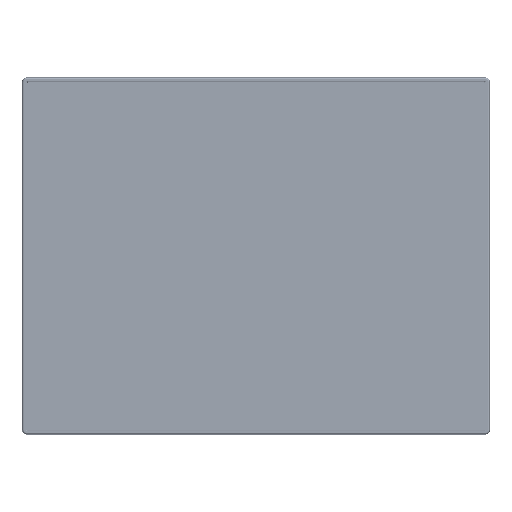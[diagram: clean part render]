
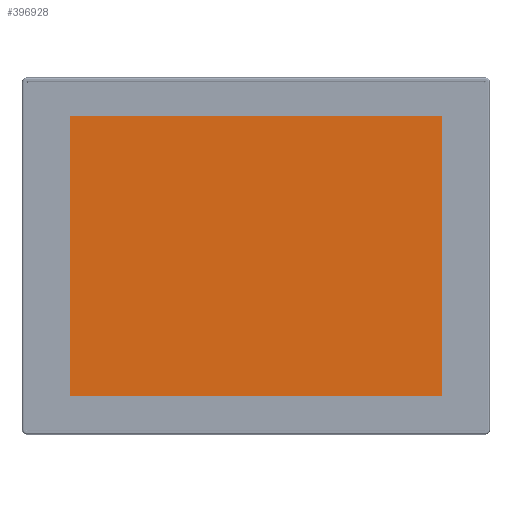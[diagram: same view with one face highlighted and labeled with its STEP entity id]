
A CAD part, top view. The second image highlights one B-rep face of the part: STEP entity #396928.
In plain terms, the highlighted planar face has unit normal (0, 0, 1).
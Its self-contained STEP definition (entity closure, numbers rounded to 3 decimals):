
#396389=DIRECTION('',(0.,-1.,0.));
#396390=VECTOR('',#396389,7.335);
#396391=CARTESIAN_POINT('',(-4.866,3.667,
0.26));
#396392=LINE('',#396391,#396390);
#396393=DIRECTION('',(-1.,0.,0.));
#396394=VECTOR('',#396393,9.732);
#396395=CARTESIAN_POINT('',(4.866,3.667,
0.26));
#396396=LINE('',#396395,#396394);
#396397=DIRECTION('',(0.,1.,0.));
#396398=VECTOR('',#396397,7.335);
#396399=CARTESIAN_POINT('',(4.866,-3.667,
0.26));
#396400=LINE('',#396399,#396398);
#396401=DIRECTION('',(1.,0.,0.));
#396402=VECTOR('',#396401,9.732);
#396403=CARTESIAN_POINT('',(-4.866,-3.667,
0.26));
#396404=LINE('',#396403,#396402);
#396497=CARTESIAN_POINT('',(-4.866,3.667,
0.26));
#396498=CARTESIAN_POINT('',(-4.866,-3.667,
0.26));
#396499=VERTEX_POINT('',#396497);
#396500=VERTEX_POINT('',#396498);
#396501=CARTESIAN_POINT('',(4.866,-3.667,
0.26));
#396502=VERTEX_POINT('',#396501);
#396503=CARTESIAN_POINT('',(4.866,3.667,
0.26));
#396504=VERTEX_POINT('',#396503);
#396917=CARTESIAN_POINT('',(0.,0.,0.26));
#396918=DIRECTION('',(0.,0.,1.));
#396919=DIRECTION('',(1.,0.,0.));
#396920=AXIS2_PLACEMENT_3D('',#396917,#396918,#396919);
#396921=PLANE('',#396920);
#396922=ORIENTED_EDGE('',*,*,#396869,.F.);
#396923=ORIENTED_EDGE('',*,*,#396884,.F.);
#396924=ORIENTED_EDGE('',*,*,#396898,.F.);
#396925=ORIENTED_EDGE('',*,*,#396911,.F.);
#396926=EDGE_LOOP('',(#396922,#396923,#396924,#396925));
#396927=FACE_OUTER_BOUND('',#396926,.F.);
#396928=ADVANCED_FACE('',(#396927),#396921,.T.);
#396869=EDGE_CURVE('',#396499,#396500,#396392,.T.);
#396884=EDGE_CURVE('',#396504,#396499,#396396,.T.);
#396898=EDGE_CURVE('',#396502,#396504,#396400,.T.);
#396911=EDGE_CURVE('',#396500,#396502,#396404,.T.);
